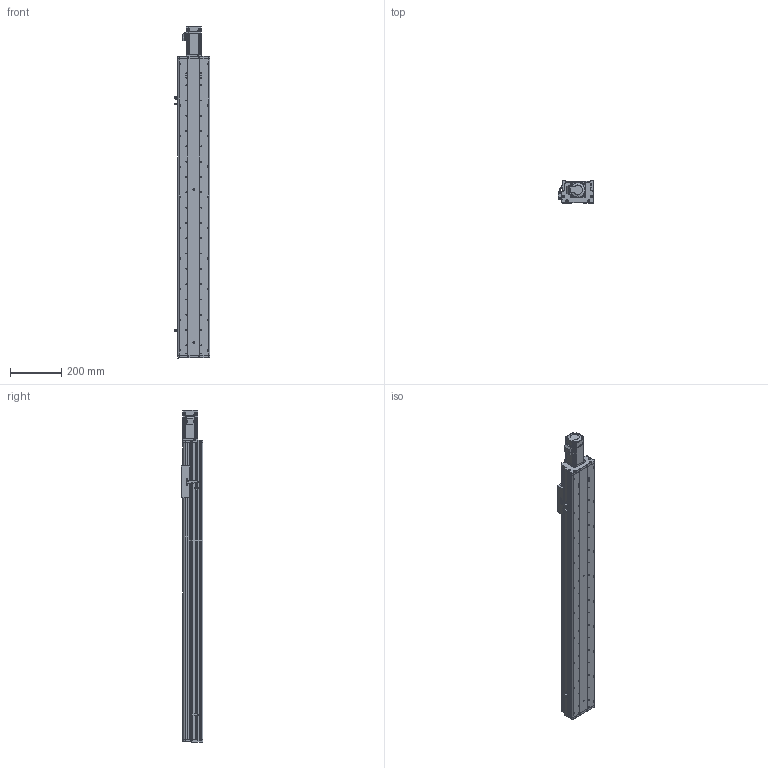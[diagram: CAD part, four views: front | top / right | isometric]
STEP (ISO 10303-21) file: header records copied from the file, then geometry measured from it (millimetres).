
FILE_DESCRIPTION (( 'STEP AP214' ), '1' );
FILE_NAME ('KSD125S-S900-MN-CM.STEP', '2017-08-07T06:20:11', ( '微软用户' ), ( '微软中国' ), 'SwSTEP 2.0', 'SolidWorks 2014', '' );
FILE_SCHEMA (( 'AUTOMOTIVE_DESIGN' ));
Length unit declared in the file: millimetre
Products named in the file (12): KSD125S-900行程丝杆底板-直连不带电机座; KSD125S-900行程丝杆防尘盖-直连不带电机座; 125宽模组 - 直连不带电机座电机安装板; MHMD042G1CA_2_03; 拸萇儂釱滅袉菜; 覜茼え68遵圉猾敕; U倰嫖萇假蚾璃; U倰嫖萇EEㄜSX672; KSD125-賑雄釱1; CS-34X32-10X14; 125-帣傷啣1; KSD125S-S900-MN-CM
Assembly tree (15 placements, depth 2):
  KSD125S-S900-MN-CM
    125-帣傷啣1
    CS-34X32-10X14
    KSD125-賑雄釱1
    U倰嫖萇EEㄜSX672  x3
    U倰嫖萇假蚾璃  x3
    覜茼え68遵圉猾敕
    拸萇儂釱滅袉菜
    MHMD042G1CA_2_03
    125宽模组 - 直连不带电机座电机安装板
    KSD125S-900行程丝杆防尘盖-直连不带电机座
    KSD125S-900行程丝杆底板-直连不带电机座
Bounding box: 138.7 x 86 x 1301.5 mm (x, y, z)
Volume: 3719972.2 mm3; surface area: 1216114.7 mm2
Topology: 14 solids, 17 shells, 1504 faces, 4359 edges, 2869 vertices
Faces by surface type: cylinder 768, plane 623, cone 91, bspline 22
Entity records: 53292 total; most frequent: CARTESIAN_POINT 11322, DIRECTION 7567, ORIENTED_EDGE 7226, EDGE_CURVE 3691, AXIS2_PLACEMENT_3D 2792, VERTEX_POINT 2461, VECTOR 1983, LINE 1983
